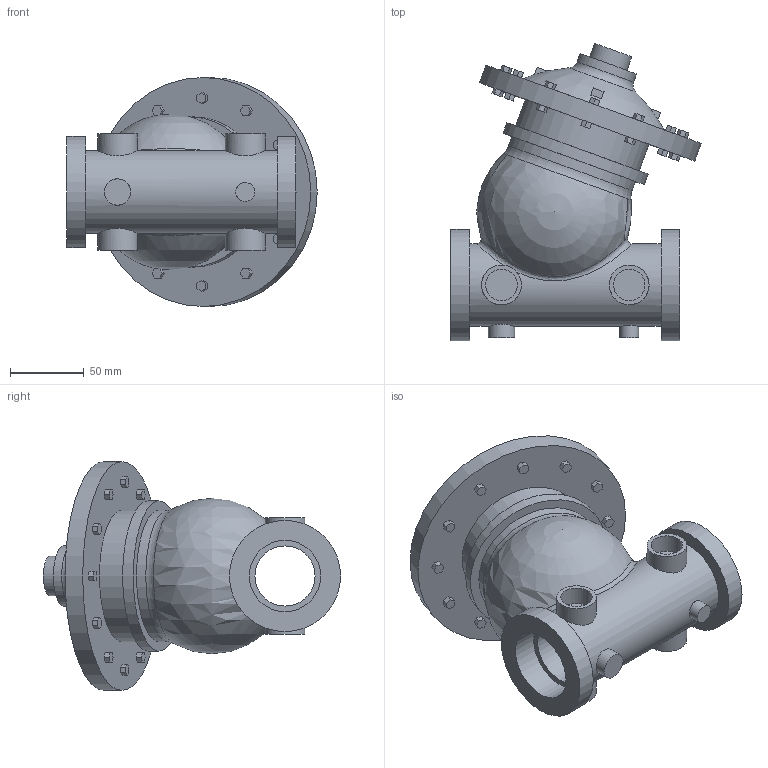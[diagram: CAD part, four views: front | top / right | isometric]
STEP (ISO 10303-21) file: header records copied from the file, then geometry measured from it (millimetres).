
FILE_DESCRIPTION(/* description */ ('VIC FP VALVE PRESSURE RELIEF SERIES 867-7UF (FPT)','CAx-IF Rec.Pracs.---Representation and Presentation of Product Manufacturing Information (PMI)---4.0---2014-10-13'),/* implementation_level */ '2;1');
FILE_NAME(/* name */ 'C:\Series 867-7UF\Series 867-7UF final\Victaulic_FP-Bermad_Valve Pressure Relief_Series 867-7UF (FPT)\Victaulic_FP-Bermad_Valve Pressure Relief_Series 867-7UF (FPT)_1.5 (40).stp',/* time_stamp */ '2021-09-02T13:09:39+06:00',/* author */ ('kkamble'),/* organization */ ('Victaulic'),/* preprocessor_version */ 'ST-DEVELOPER v17.2',/* originating_system */ 'Autodesk Inventor 2019',/* authorisation */ '');
FILE_SCHEMA (('AP242_MANAGED_MODEL_BASED_3D_ENGINEERING_MIM_LF { 1 0 10303 442 1 1 4 }'));
Length unit declared in the file: inch
Products named in the file (1): 867-7UF-01.5
Bounding box: 169.36 x 201 x 154.94 mm (x, y, z)
Volume: 1266159.4 mm3; surface area: 140227 mm2
Topology: 1 solids, 1 shells, 233 faces, 592 edges, 404 vertices
Faces by surface type: plane 206, cylinder 22, torus 2, bspline 2, sphere 1
Full cylindrical faces by diameter (mm): 12.7 x1, 17.78 x1, 21.336 x4, 26.67 x1, 26.873 x4, 40.64 x2, 48.26 x2, 55.88 x1, 75.184 x2, 88.9 x2, 101.6 x1, 154.94 x1
Entity records: 7947 total; most frequent: CARTESIAN_POINT 1920, ORIENTED_EDGE 1180, DIRECTION 1120, EDGE_CURVE 590, LINE 476, VECTOR 476, VERTEX_POINT 404, AXIS2_PLACEMENT_3D 322
